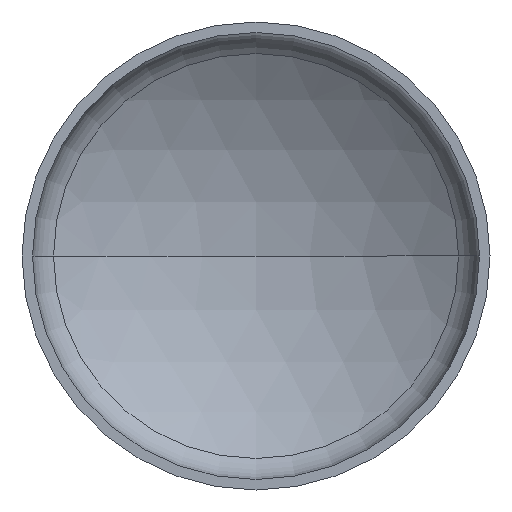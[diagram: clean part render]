
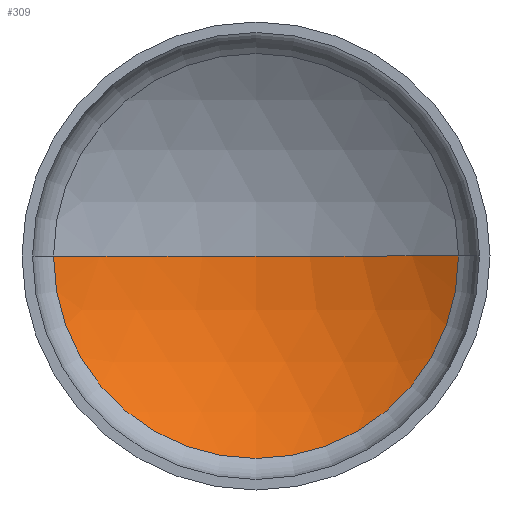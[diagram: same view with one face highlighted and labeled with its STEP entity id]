
A CAD part, front view. The second image highlights one B-rep face of the part: STEP entity #309.
In plain terms, the highlighted spherical face has radius 67.12 mm.
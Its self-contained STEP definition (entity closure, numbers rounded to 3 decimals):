
#31 = CARTESIAN_POINT ( 'NONE',  ( 0., -46.12, 0. ) ) ;
#33 = AXIS2_PLACEMENT_3D ( 'NONE', #190, #274, #396 ) ;
#66 = CARTESIAN_POINT ( 'NONE',  ( 38.465, 8.885, 0. ) ) ;
#69 = DIRECTION ( 'NONE',  ( 1., 0., 0. ) ) ;
#84 = EDGE_CURVE ( 'NONE', #204, #230, #256, .T. ) ;
#127 = AXIS2_PLACEMENT_3D ( 'NONE', #31, #220, #69 ) ;
#131 = CARTESIAN_POINT ( 'NONE',  ( 0., -46.12, 0. ) ) ;
#133 = CARTESIAN_POINT ( 'NONE',  ( -38.465, 8.885, 0. ) ) ;
#135 = CIRCLE ( 'NONE', #33, 38.465 ) ;
#151 = DIRECTION ( 'NONE',  ( -1., 0., 0. ) ) ;
#156 = SPHERICAL_SURFACE ( 'NONE', #308, 67.12 ) ;
#159 = CARTESIAN_POINT ( 'NONE',  ( 0., -46.12, 0. ) ) ;
#172 = DIRECTION ( 'NONE',  ( 0., 0., -1. ) ) ;
#190 = CARTESIAN_POINT ( 'NONE',  ( 0., 8.885, 0. ) ) ;
#201 = ORIENTED_EDGE ( 'NONE', *, *, #84, .T. ) ;
#204 = VERTEX_POINT ( 'NONE', #66 ) ;
#220 = DIRECTION ( 'NONE',  ( 0., 0., 1. ) ) ;
#230 = VERTEX_POINT ( 'NONE', #278 ) ;
#236 = ORIENTED_EDGE ( 'NONE', *, *, #334, .F. ) ;
#238 = CIRCLE ( 'NONE', #392, 67.12 ) ;
#251 = DIRECTION ( 'NONE',  ( -1., 0., 0. ) ) ;
#256 = CIRCLE ( 'NONE', #127, 67.12 ) ;
#274 = DIRECTION ( 'NONE',  ( 0., 1., 0. ) ) ;
#278 = CARTESIAN_POINT ( 'NONE',  ( 0., 21., 0. ) ) ;
#290 = ORIENTED_EDGE ( 'NONE', *, *, #311, .F. ) ;
#293 = EDGE_LOOP ( 'NONE', ( #290, #201, #236 ) ) ;
#304 = DIRECTION ( 'NONE',  ( 0., 0., 1. ) ) ;
#308 = AXIS2_PLACEMENT_3D ( 'NONE', #131, #304, #151 ) ;
#309 = ADVANCED_FACE ( 'NONE', ( #369 ), #156, .F. ) ;
#311 = EDGE_CURVE ( 'NONE', #204, #352, #135, .T. ) ;
#334 = EDGE_CURVE ( 'NONE', #352, #230, #238, .T. ) ;
#352 = VERTEX_POINT ( 'NONE', #133 ) ;
#369 = FACE_OUTER_BOUND ( 'NONE', #293, .T. ) ;
#392 = AXIS2_PLACEMENT_3D ( 'NONE', #159, #172, #251 ) ;
#396 = DIRECTION ( 'NONE',  ( -1., 0., 0. ) ) ;
